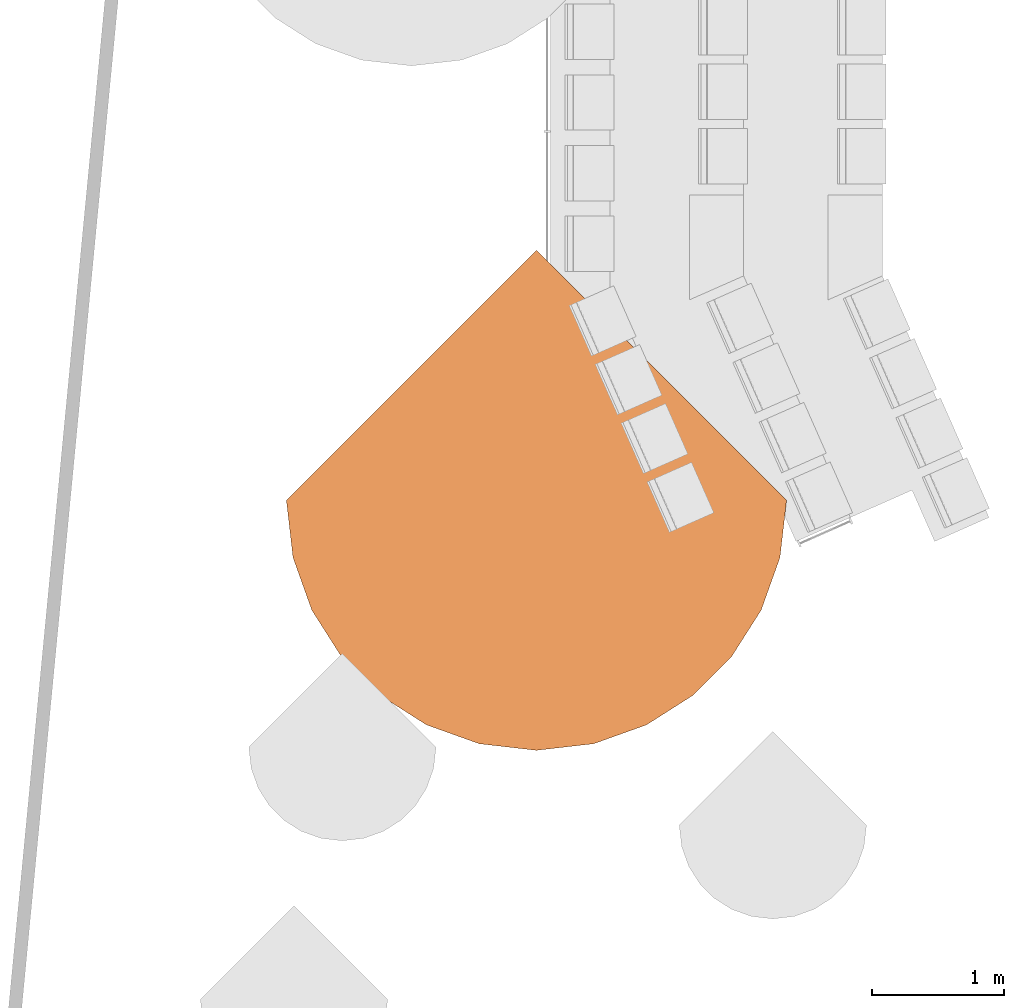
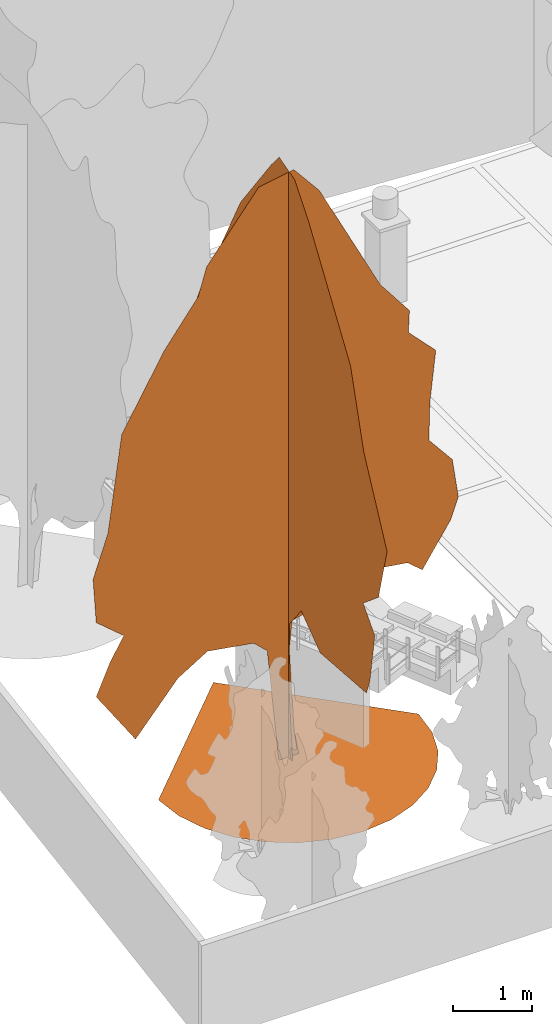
# One storey, part 75 of 75: 1 proxy.
"""IFC2X3 building model written with IfcOpenShell, lengths in metres."""

from ifc_helpers import new_model, entity, si_unit, converted_unit, derived_unit, direction, frame, origin, place, context, subcontext, project, spatial, face_set, surface_model, source, transform, mapped, material, type_object, type_shapes, element, save


model = new_model("IFC2X3")

# Units and contexts
model_context = context("Model", 3, precision=1e-05, world=origin(), true_north=direction((6.12303176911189e-17, 1.0)))
body_context = subcontext(model_context, "Body", "Model", "MODEL_VIEW")
ifc_project = project(units=[si_unit("LENGTHUNIT", "METRE"), si_unit("AREAUNIT", "SQUARE_METRE"), si_unit("VOLUMEUNIT", "CUBIC_METRE"), converted_unit("PLANEANGLEUNIT", "DEGREE", entity("IfcRatioMeasure", 0.0174532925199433), si_unit("PLANEANGLEUNIT", "RADIAN"), dimensions=[0, 0, 0, 0, 0, 0, 0]), si_unit("MASSUNIT", "GRAM", prefix="KILO"), derived_unit("MASSDENSITYUNIT", [(si_unit("MASSUNIT", "GRAM", prefix="KILO"), 1), (si_unit("LENGTHUNIT", "METRE"), -3)]), derived_unit("MOMENTOFINERTIAUNIT", [(si_unit("LENGTHUNIT", "METRE"), 4)]), si_unit("TIMEUNIT", "SECOND"), si_unit("FREQUENCYUNIT", "HERTZ"), si_unit("THERMODYNAMICTEMPERATUREUNIT", "DEGREE_CELSIUS"), derived_unit("THERMALTRANSMITTANCEUNIT", [(si_unit("MASSUNIT", "GRAM", prefix="KILO"), 1), (si_unit("THERMODYNAMICTEMPERATUREUNIT", "KELVIN"), -1), (si_unit("TIMEUNIT", "SECOND"), -3)]), derived_unit("VOLUMETRICFLOWRATEUNIT", [(si_unit("LENGTHUNIT", "METRE"), 3), (si_unit("TIMEUNIT", "SECOND"), -1)]), si_unit("ELECTRICCURRENTUNIT", "AMPERE"), si_unit("ELECTRICVOLTAGEUNIT", "VOLT"), si_unit("POWERUNIT", "WATT"), si_unit("FORCEUNIT", "NEWTON", prefix="KILO"), si_unit("ILLUMINANCEUNIT", "LUX"), si_unit("LUMINOUSFLUXUNIT", "LUMEN"), si_unit("LUMINOUSINTENSITYUNIT", "CANDELA"), derived_unit("USERDEFINED", [(si_unit("MASSUNIT", "GRAM", prefix="KILO"), -1), (si_unit("LENGTHUNIT", "METRE"), -2), (si_unit("TIMEUNIT", "SECOND"), 3), (si_unit("LUMINOUSFLUXUNIT", "LUMEN"), 1)]), derived_unit("LINEARVELOCITYUNIT", [(si_unit("LENGTHUNIT", "METRE"), 1), (si_unit("TIMEUNIT", "SECOND"), -1)]), si_unit("PRESSUREUNIT", "PASCAL"), derived_unit("USERDEFINED", [(si_unit("LENGTHUNIT", "METRE"), -2), (si_unit("MASSUNIT", "GRAM", prefix="KILO"), 1), (si_unit("TIMEUNIT", "SECOND"), -2)]), derived_unit("LINEARFORCEUNIT", [(si_unit("MASSUNIT", "GRAM", prefix="KILO"), 1), (si_unit("LENGTHUNIT", "METRE"), 1), (si_unit("TIMEUNIT", "SECOND"), -2), (si_unit("LENGTHUNIT", "METRE"), -1)]), derived_unit("PLANARFORCEUNIT", [(si_unit("MASSUNIT", "GRAM", prefix="KILO"), 1), (si_unit("LENGTHUNIT", "METRE"), 1), (si_unit("TIMEUNIT", "SECOND"), -2), (si_unit("LENGTHUNIT", "METRE"), -2)])], contexts=[model_context])

# Site, building, storey
site_placement = place(None, origin())
site = spatial("IfcSite", under=ifc_project, at=site_placement, Name="Superficie", CompositionType="ELEMENT")
building_placement = place(site_placement, origin())
building = spatial("IfcBuilding", under=site, at=building_placement, Name="Telegestiones", CompositionType="ELEMENT")
storey_placement = place(building_placement, origin())
storey = spatial("IfcBuildingStorey", under=building, at=storey_placement, Name="Nivel 0_NPT", CompositionType="ELEMENT", Elevation=0.0)

# Proxy
ifc_material = material(Name="<Unnamed>")
building_element_proxy_type = type_object("IfcBuildingElementProxyType", Name="RPC Árbol - Otoño:Fresno blanco - 9,1 metros", PredefinedType="NOTDEFINED", material=ifc_material)
shared_shape = source(origin(), body_context, "Body", "SurfaceModel", [
    surface_model("IfcFaceBasedSurfaceModel", [(1.89395416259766, 1.65574628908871e-07, 0.0), (-2.48362194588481e-07, 1.89395416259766, 0.0), (-1.89395416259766, 0.0, 0.0), (1.8438839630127, -0.433969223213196, 0.0), (-1.8438839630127, -0.433969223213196, 0.0), (1.70128423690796, -0.832498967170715, 0.0), (-1.70128685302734, -0.832501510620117, 0.0), (-1.47757579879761, -1.18417633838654, 0.0), (1.47757579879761, -1.18417633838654, 0.0), (1.18417633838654, -1.47757579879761, 0.0), (-1.18417633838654, -1.47757579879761, 0.0), (-0.832498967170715, -1.70128423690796, 0.0), (-0.433969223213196, -1.8438839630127, 0.0), (8.27873144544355e-08, -1.89395416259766, 0.0), (0.433969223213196, -1.8438839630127, 0.0), (0.832501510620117, -1.70128685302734, 0.0), (4.64269752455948e-08, 0.162282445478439, 1.23326832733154), (5.81359038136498e-09, 0.0975053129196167, 6.10749513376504e-05), (-6.40006038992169e-09, -0.107405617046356, 6.10504323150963e-05), (2.8996920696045e-08, -0.0190626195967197, 1.01110434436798), (6.00163166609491e-08, -0.0223542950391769, 2.05851766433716), (7.60002238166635e-08, 0.343775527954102, 1.86259459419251), (1.53663488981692e-07, 1.91060459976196, 1.33487753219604), (1.34756446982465e-07, 1.71846560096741, 1.08474359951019), (9.3253337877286e-08, 0.697214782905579, 1.73463074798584), (1.81793379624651e-07, 2.16719707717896, 1.76557842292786), (1.95627656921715e-07, 2.10530187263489, 2.35357029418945), (8.95640442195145e-08, 0.511534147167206, 1.98220662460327), (2.33902799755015e-07, 2.38382527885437, 3.08083287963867), (2.30949587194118e-07, 2.54317383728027, 2.66304123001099), (2.58804204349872e-07, -0.153827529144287, 8.9916918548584), (2.85090587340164e-07, 0.233009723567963, 9.10000733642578), (2.89895901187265e-07, 0.431835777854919, 8.86363455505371), (1.43973747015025e-08, -0.803712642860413, 2.0905193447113), (-5.24332320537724e-08, -1.96845789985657, 2.17755080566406), (-5.06240989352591e-08, -2.05706426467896, 2.4154630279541), (-3.49452917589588e-08, -2.18085220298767, 3.18914807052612), (-7.73763519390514e-09, -1.88685619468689, 3.51406893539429), (5.35947456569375e-08, -0.324036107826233, 2.44641055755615), (2.24679942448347e-07, -0.509716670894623, 8.55843050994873), (3.04918508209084e-07, 1.20783892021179, 7.81571828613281), (1.14774603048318e-07, -1.56533526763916, 6.98185406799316), (3.07190969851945e-07, 2.2290898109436, 5.84940865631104), (6.09730817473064e-08, -1.90233126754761, 5.8505713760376), (3.04301707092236e-07, 2.56428097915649, 5.08212642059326), (2.83705366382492e-07, 2.6159234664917, 4.28774642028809), (2.66182791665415e-07, 2.46119308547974, 4.0092358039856), (-9.12101365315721e-09, -2.49032066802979, 4.67459780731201), (-2.1110828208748e-08, -2.27369246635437, 3.8390150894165), (0.0821546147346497, -4.65103906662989e-08, 0.36003420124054), (0.15179444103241, -6.64325826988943e-09, 6.79472279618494e-05), (-0.139050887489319, 6.07000844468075e-09, 6.79598644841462e-05), (-0.309010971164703, -1.9454148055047e-07, 1.74523983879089), (0.0142947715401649, -1.99253009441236e-07, 1.66621384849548), (-1.61074179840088, -1.41228068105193e-07, 1.77533058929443), (-2.22796996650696, -2.82355524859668e-08, 1.05380362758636), (-2.80050202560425, -1.04661966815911e-07, 1.90484637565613), (-2.59934133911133, -1.68792251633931e-07, 2.36905045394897), (2.36765257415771, -4.41244202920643e-07, 2.83326194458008), (1.95207794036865, -3.47450930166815e-07, 2.19884238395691), (1.7332404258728, -3.60019049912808e-07, 2.38452291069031), (0.0541728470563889, -2.50791645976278e-07, 2.08392948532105), (-0.508058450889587, -2.07929096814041e-07, 1.93052867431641), (-2.39818050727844, -2.1816584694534e-07, 2.70947647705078), (-1.17888065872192, -1.91775820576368e-07, 2.04100274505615), (-0.433046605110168, -1.04558579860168e-06, 8.92981191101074), (0.0775778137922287, -1.07897525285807e-06, 9.02265740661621), (0.448941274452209, -1.04171318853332e-06, 8.57392549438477), (-1.19124654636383, -8.98079752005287e-07, 7.97044372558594), (1.33731938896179, -8.70264031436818e-07, 6.80994014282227), (-1.31503702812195, -8.42865448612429e-07, 7.5526773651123), (-1.8087477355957, -7.42805823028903e-07, 6.8943425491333), (-2.42912556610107, -5.87574862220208e-07, 5.81963140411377), (-2.63028131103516, -4.05390143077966e-07, 4.36512192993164), (1.76326548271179, -8.23345910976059e-07, 6.26017311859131), (1.7487130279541, -7.83106152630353e-07, 5.92794688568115), (2.14730337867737, -7.51091818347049e-07, 5.51323964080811), (2.06246349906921, -6.57298614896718e-07, 4.75755960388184), (2.04648293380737, -5.85792722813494e-07, 4.16358190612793), (-2.84691198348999, -3.20292449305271e-07, 3.73072489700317), (-2.80050202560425, -2.4116105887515e-07, 3.04989261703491), (0.351361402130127, -2.72085162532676e-07, 2.1535825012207), (0.634621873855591, -3.10153521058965e-07, 2.36905045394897), (1.09882842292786, -3.43644089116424e-07, 2.47976956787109), (2.38802138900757, -5.50965013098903e-07, 3.74619488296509), (2.47596776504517, -4.82869130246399e-07, 3.14271282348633)], [face_set([[[0, 1, 2]], [[3, 0, 2]], [[3, 2, 4]], [[5, 3, 4]], [[5, 4, 6]], [[5, 6, 7]], [[8, 5, 7]], [[9, 8, 7]], [[9, 7, 10]], [[9, 10, 11]], [[9, 11, 12]], [[9, 12, 13]], [[9, 13, 14]], [[9, 14, 15]], [[16, 17, 18]], [[16, 18, 19]], [[16, 19, 20]], [[21, 16, 20]], [[22, 23, 24]], [[25, 22, 24]], [[26, 25, 24]], [[26, 24, 27]], [[28, 29, 26]], [[30, 31, 32]], [[33, 34, 35]], [[33, 35, 36]], [[33, 36, 37]], [[38, 33, 37]], [[27, 21, 20]], [[39, 30, 32]], [[39, 32, 40]], [[41, 39, 40]], [[41, 40, 42]], [[43, 41, 42]], [[43, 42, 44]], [[43, 44, 45]], [[43, 45, 46]], [[47, 43, 46]], [[48, 47, 46]], [[37, 48, 46]], [[38, 37, 46]], [[38, 46, 28]], [[38, 28, 26]], [[38, 26, 27]], [[38, 27, 20]], [[49, 50, 51]], [[49, 51, 52]], [[53, 49, 52]], [[54, 55, 56]], [[54, 56, 57]], [[58, 59, 60]], [[61, 53, 52]], [[61, 52, 62]], [[54, 57, 63]], [[64, 54, 63]], [[65, 66, 67]], [[68, 65, 67]], [[68, 67, 69]], [[70, 68, 69]], [[71, 70, 69]], [[72, 71, 69]], [[73, 72, 69]], [[73, 69, 74]], [[73, 74, 75]], [[73, 75, 76]], [[73, 76, 77]], [[73, 77, 78]], [[79, 73, 78]], [[80, 79, 78]], [[63, 80, 78]], [[64, 63, 78]], [[62, 64, 78]], [[61, 62, 78]], [[81, 61, 78]], [[82, 81, 78]], [[83, 82, 78]], [[83, 78, 84]], [[60, 83, 84]], [[58, 60, 84]], [[58, 84, 85]]])]),
])
type_shapes(building_element_proxy_type, [shared_shape])
proxy_placement = place(storey_placement, frame((-18.1387427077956, 0.554584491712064, -0.2)))
element("IfcBuildingElementProxy", 1, at=proxy_placement, inside=storey, type_object=building_element_proxy_type, material=ifc_material, Name="RPC Árbol - Otoño:Fresno blanco - 9,1 metros", ObjectType="RPC Árbol - Otoño:Fresno blanco - 9,1 metros", context=body_context, shape_type="MappedRepresentation", body=[
    mapped(shared_shape, transform((0.0, 0.0, 0.0), scale=1.0)),
])

save(model, "model.ifc")
